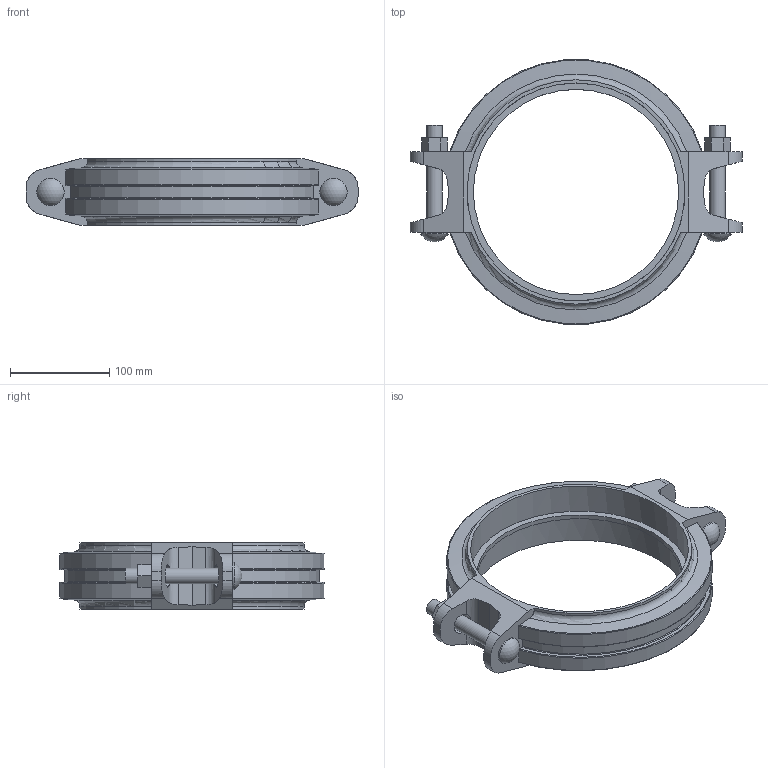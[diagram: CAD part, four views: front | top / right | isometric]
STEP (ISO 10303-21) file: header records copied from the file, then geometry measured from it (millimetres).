
FILE_DESCRIPTION(/* description */ ('VIC STYLE 005H FIRELOCK RIGID COUPLING','CAx-IF Rec.Pracs.---Representation and Presentation of Product Manufacturing Information (PMI)---4.0---2014-10-13'),/* implementation_level */ '2;1');
FILE_NAME(/* name */ 'C:\Users\Vjadhav\Desktop\CAD for Inventor\1\Coupling bolt thickness\005H\STEP\Victaulic_FP-FireLock_Coupling Rigid_Style 005H (OGS)\Victaulic_FP-FireLock_Coupling Rigid_Style 005H (OGS)_8 (200).stp',/* time_stamp */ '2022-03-28T11:25:22+06:00',/* author */ ('jheald'),/* organization */ ('Victaulic'),/* preprocessor_version */ 'ST-DEVELOPER v17.2',/* originating_system */ 'Autodesk Inventor 2019',/* authorisation */ '');
FILE_SCHEMA (('AP242_MANAGED_MODEL_BASED_3D_ENGINEERING_MIM_LF { 1 0 10303 442 1 1 4 }'));
Length unit declared in the file: inch
Products named in the file (1): 005H-08.0
Bounding box: 333.76 x 265.76 x 66.8 mm (x, y, z)
Volume: 1065694 mm3; surface area: 174856.1 mm2
Topology: 1 solids, 1 shells, 117 faces, 345 edges, 234 vertices
Faces by surface type: plane 56, cylinder 39, torus 16, cone 4, sphere 2
Full cylindrical faces by diameter (mm): 15.875 x4, 27.381 x2, 206.375 x1, 219.075 x2
Entity records: 4572 total; most frequent: CARTESIAN_POINT 1154, ORIENTED_EDGE 690, DIRECTION 673, EDGE_CURVE 345, AXIS2_PLACEMENT_3D 245, VERTEX_POINT 234, LINE 183, VECTOR 183
